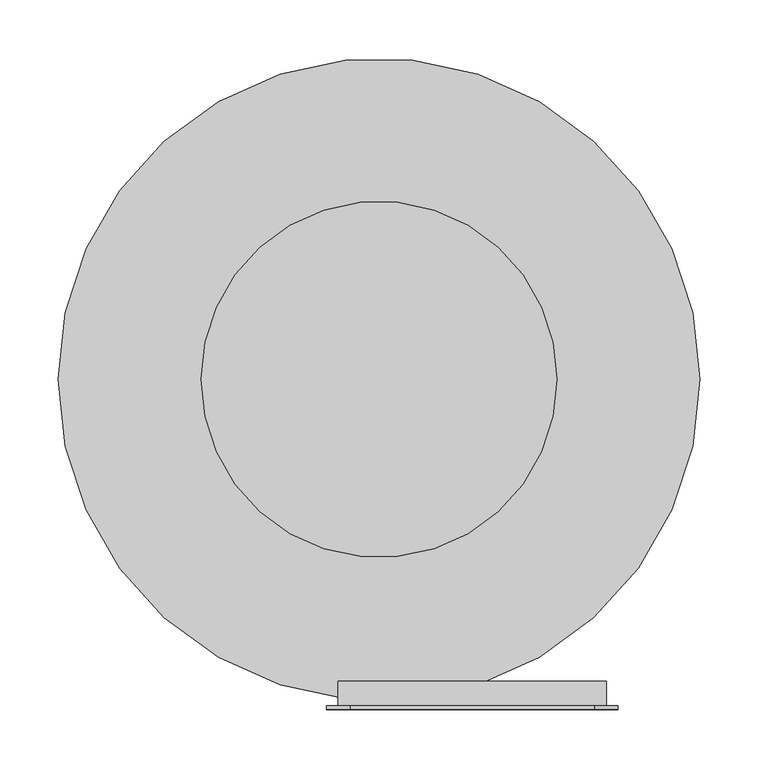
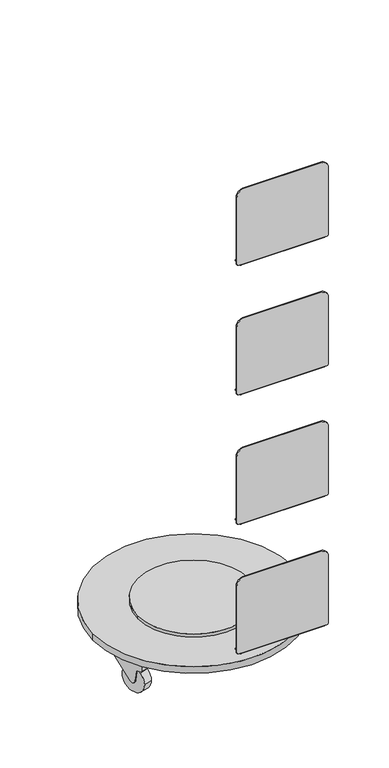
"""IFC4 building model written with IfcOpenShell, lengths in millimetres: furniture geometry, BK Library - Linnea : BK Library - Linnea."""

from ifc_helpers import new_model, si_unit, point, frame, frame_2d, origin, origin_2d, place, context, project, spatial, polyline, circle_curve, trimmed, segment, composite_curve, outline, extrude, source, transform, mapped, element, save
from ifc_brep_helpers import plane_surface, cylinder_surface, advanced_brep


def furniture_84b8f935(model_context):
    return source(origin(), model_context, "Body", "SolidModel", [
        extrude(outline(composite_curve([segment(trimmed(circle_curve(origin_2d(), 152.516398), [point((-152.516398, 0.0))], [point((152.516398, 0.0))], False, "CARTESIAN"), True, "CONTINUOUS"), segment(trimmed(circle_curve(origin_2d(), 152.516398), [point((152.516398, 0.0))], [point((-152.516398, 0.0))], False, "CARTESIAN"), True, "CONTINUOUS")], self_intersect=False)), frame((0.0, 0.0, 116.0), z_axis=(0.0, 0.0, 1.0), x_axis=(1.0, 0.0, 0.0)), (0.0, 0.0, 1.0), 9.0),
        extrude(outline(composite_curve([segment(trimmed(circle_curve(frame_2d((228.1998061, -74.1779219)), 12.5248147), [point((224.3294255, -86.0897285))], [point((232.0701867, -62.2661152))], False, "CARTESIAN"), True, "CONTINUOUS"), segment(trimmed(circle_curve(frame_2d((228.1998061, -74.1779219)), 12.5248147), [point((232.0701867, -62.2661152))], [point((224.3294255, -86.0897285))], False, "CARTESIAN"), True, "CONTINUOUS")], self_intersect=False)), frame((0.0, 0.0, 87.7), z_axis=(0.0, 0.0, 1.0), x_axis=(1.0, 0.0, 0.0)), (0.0, 0.0, 1.0), 9.3),
        extrude(outline(composite_curve([segment(polyline([(0.0, -4.0), (-15.534626, -4.0), (-15.534626, 82.4985133), (-7.8331448, 82.4985133), (42.8326001, 31.6464633)]), True, "CONTINUOUS"), segment(trimmed(circle_curve(frame_2d((37.165374, 26.0)), 8.0), [point((42.8326001, 31.6464633))], [point((38.2375371, 18.0721714))], False, "CARTESIAN"), True, "CONTINUOUS"), segment(polyline([(38.2375371, 18.0721714), (6.2199498, 13.7420986)]), True, "CONTINUOUS"), segment(trimmed(circle_curve(frame_2d((6.4879906, 11.7601414)), 2.0), [point((6.2199498, 13.7420986))], [point((4.5183751, 12.1074378))], True, "CARTESIAN"), True, "CONTINUOUS"), segment(polyline([(4.5183751, 12.1074378), (1.9696155, -2.3472964)]), True, "CONTINUOUS"), segment(trimmed(circle_curve(frame_2d((0.0, -2.0)), 2.0), [point((1.9696155, -2.3472964))], [point((0.0, -4.0))], False, "CARTESIAN"), True, "CONTINUOUS")], self_intersect=False)), frame((262.2837087, -21.2071499, 72.665374), z_axis=(-0.9510565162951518, 0.3090169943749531, 0.0), x_axis=(0.0, 0.0, -1.0)), (0.0, 0.0, 1.0), 32.0),
        extrude(outline(composite_curve([segment(trimmed(circle_curve(frame_2d((0.0, -35.6947524)), 35.6947525), [point((0.0, -71.389505))], [point((0.0, 0.0))], False, "CARTESIAN"), True, "CONTINUOUS"), segment(trimmed(circle_curve(frame_2d((0.0, -35.6947524)), 35.6947525), [point((0.0, 0.0))], [point((0.0, -71.389505))], False, "CARTESIAN"), True, "CONTINUOUS")], self_intersect=False)), frame((239.446761, -78.5477759, 35.6872146), z_axis=(-0.9510565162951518, 0.3090169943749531, 0.0), x_axis=(0.0, 0.0, -1.0)), (0.0, 0.0, 1.0), 24.0),
        extrude(outline(composite_curve([segment(trimmed(circle_curve(frame_2d((141.0650141, 194.1086741)), 12.5248147), [point((151.1978021, 186.7467727))], [point((130.9322262, 201.4705755))], False, "CARTESIAN"), True, "CONTINUOUS"), segment(trimmed(circle_curve(frame_2d((141.0650141, 194.1086741)), 12.5248147), [point((130.9322262, 201.4705755))], [point((151.1978021, 186.7467727))], False, "CARTESIAN"), True, "CONTINUOUS")], self_intersect=False)), frame((0.0, 0.0, 87.7), z_axis=(0.0, 0.0, 1.0), x_axis=(1.0, 0.0, 0.0)), (0.0, 0.0, 1.0), 9.3),
        extrude(outline(composite_curve([segment(trimmed(circle_curve(frame_2d((0.0, -2.0)), 2.0), [point((0.0, -4.0))], [point((-1.9696155, -2.3472964))], False, "CARTESIAN"), True, "CONTINUOUS"), segment(polyline([(-1.9696155, -2.3472964), (-4.5183751, 12.1074377)]), True, "CONTINUOUS"), segment(trimmed(circle_curve(frame_2d((-6.4879906, 11.7601414)), 2.0), [point((-4.5183751, 12.1074377))], [point((-6.2199498, 13.7420985))], True, "CARTESIAN"), True, "CONTINUOUS"), segment(polyline([(-6.2199498, 13.7420985), (-38.2375371, 18.0721714)]), True, "CONTINUOUS"), segment(trimmed(circle_curve(frame_2d((-37.165374, 25.9999999)), 8.0), [point((-38.2375371, 18.0721714))], [point((-42.8326001, 31.6464633))], False, "CARTESIAN"), True, "CONTINUOUS"), segment(polyline([(-42.8326001, 31.6464633), (7.8331448, 82.4985133), (15.534626, 82.4985133), (15.534626, -4.0), (0.0, -4.0)]), True, "CONTINUOUS")], self_intersect=False)), frame((82.4101934, 217.0047167, 72.665374), z_axis=(0.5877852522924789, 0.8090169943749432, 0.0), x_axis=(0.0, 0.0, 1.0)), (0.0, 0.0, 1.0), 32.0),
        extrude(outline(composite_curve([segment(trimmed(circle_curve(frame_2d((0.0, -35.6947525)), 35.6947525), [point((0.0, -71.3895049))], [point((0.0, 0.0))], False, "CARTESIAN"), True, "CONTINUOUS"), segment(trimmed(circle_curve(frame_2d((0.0, -35.6947525)), 35.6947525), [point((0.0, 0.0))], [point((0.0, -71.3895049))], False, "CARTESIAN"), True, "CONTINUOUS")], self_intersect=False)), frame((134.5896465, 184.0383969, 35.6872146), z_axis=(0.5877852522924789, 0.8090169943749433, 0.0), x_axis=(0.0, 0.0, 1.0)), (0.0, 0.0, 1.0), 24.0),
        extrude(outline(composite_curve([segment(trimmed(circle_curve(frame_2d((-141.0168327, 194.14368)), 12.5248147), [point((-130.8840447, 201.5055814))], [point((-151.1496207, 186.7817786))], False, "CARTESIAN"), True, "CONTINUOUS"), segment(trimmed(circle_curve(frame_2d((-141.0168327, 194.14368)), 12.5248147), [point((-151.1496207, 186.7817786))], [point((-130.8840447, 201.5055814))], False, "CARTESIAN"), True, "CONTINUOUS")], self_intersect=False)), frame((0.0, 0.0, 87.7), z_axis=(0.0, 0.0, 1.0), x_axis=(1.0, 0.0, 0.0)), (0.0, 0.0, 1.0), 9.3),
        extrude(outline(composite_curve([segment(trimmed(circle_curve(frame_2d((0.0, -1.9999999)), 2.0), [point((0.0, -3.9999999))], [point((-1.9696155, -2.3472963))], False, "CARTESIAN"), True, "CONTINUOUS"), segment(polyline([(-1.9696155, -2.3472963), (-4.5183751, 12.1074379)]), True, "CONTINUOUS"), segment(trimmed(circle_curve(frame_2d((-6.4879906, 11.7601415)), 2.0), [point((-4.5183751, 12.1074379))], [point((-6.2199498, 13.7420986))], True, "CARTESIAN"), True, "CONTINUOUS"), segment(polyline([(-6.2199498, 13.7420986), (-38.2375371, 18.0721715)]), True, "CONTINUOUS"), segment(trimmed(circle_curve(frame_2d((-37.165374, 26.0000001)), 8.0), [point((-38.2375371, 18.0721715))], [point((-42.8326001, 31.6464634))], False, "CARTESIAN"), True, "CONTINUOUS"), segment(polyline([(-42.8326001, 31.6464634), (7.8331448, 82.4985134), (15.534626, 82.4985134), (15.534626, -3.9999999), (0.0, -3.9999999)]), True, "CONTINUOUS")], self_intersect=False)), frame((-180.9175997, 145.4348967, 72.665374), z_axis=(-0.5877852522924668, 0.8090169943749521, 0.0), x_axis=(0.0, 0.0, 1.0)), (0.0, 0.0, 1.0), 32.0),
        extrude(outline(composite_curve([segment(trimmed(circle_curve(frame_2d((0.0, -35.6947524)), 35.6947525), [point((0.0, -71.3895049))], [point((0.0, 0.0))], False, "CARTESIAN"), True, "CONTINUOUS"), segment(trimmed(circle_curve(frame_2d((0.0, -35.6947524)), 35.6947525), [point((0.0, 0.0))], [point((0.0, -71.3895049))], False, "CARTESIAN"), True, "CONTINUOUS")], self_intersect=False)), frame((-133.4404286, 184.8733526, 35.6872146), z_axis=(-0.5877852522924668, 0.8090169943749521, 0.0), x_axis=(0.0, 0.0, 1.0)), (0.0, 0.0, 1.0), 24.0),
        extrude(outline(composite_curve([segment(trimmed(circle_curve(frame_2d((-228.2182097, -74.1212812)), 12.5248147), [point((-232.0885903, -62.2094745))], [point((-224.3478291, -86.0330878))], False, "CARTESIAN"), True, "CONTINUOUS"), segment(trimmed(circle_curve(frame_2d((-228.2182097, -74.1212812)), 12.5248147), [point((-224.3478291, -86.0330878))], [point((-232.0885903, -62.2094745))], False, "CARTESIAN"), True, "CONTINUOUS")], self_intersect=False)), frame((0.0, 0.0, 87.7), z_axis=(0.0, 0.0, 1.0), x_axis=(1.0, 0.0, 0.0)), (0.0, 0.0, 1.0), 9.3),
        extrude(outline(composite_curve([segment(polyline([(0.0, -4.0), (-15.534626, -4.0), (-15.534626, 82.4985134), (-7.8331448, 82.4985134), (42.8326001, 31.6464633)]), True, "CONTINUOUS"), segment(trimmed(circle_curve(frame_2d((37.165374, 26.0)), 8.0), [point((42.8326001, 31.6464633))], [point((38.2375371, 18.0721714))], False, "CARTESIAN"), True, "CONTINUOUS"), segment(polyline([(38.2375371, 18.0721714), (6.2199498, 13.7420986)]), True, "CONTINUOUS"), segment(trimmed(circle_curve(frame_2d((6.4879906, 11.7601414)), 2.0), [point((6.2199498, 13.7420986))], [point((4.5183751, 12.1074378))], True, "CARTESIAN"), True, "CONTINUOUS"), segment(polyline([(4.5183751, 12.1074378), (1.9696155, -2.3472963)]), True, "CONTINUOUS"), segment(trimmed(circle_curve(frame_2d((0.0, -1.9999999)), 2.0), [point((1.9696155, -2.3472963))], [point((0.0, -4.0))], False, "CARTESIAN"), True, "CONTINUOUS")], self_intersect=False)), frame((-224.6572276, -137.0095512, 72.665374), z_axis=(0.9510565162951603, 0.3090169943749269, 0.0), x_axis=(0.0, 0.0, -1.0)), (0.0, 0.0, 1.0), 32.0),
        extrude(outline(composite_curve([segment(trimmed(circle_curve(frame_2d((0.0, -35.6947524)), 35.6947525), [point((0.0, -71.3895049))], [point((0.0, 0.0))], False, "CARTESIAN"), True, "CONTINUOUS"), segment(trimmed(circle_curve(frame_2d((0.0, -35.6947524)), 35.6947525), [point((0.0, 0.0))], [point((0.0, -71.3895049))], False, "CARTESIAN"), True, "CONTINUOUS")], self_intersect=False)), frame((-239.8857232, -77.1967893, 35.6872146), z_axis=(0.9510565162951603, 0.30901699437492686, 0.0), x_axis=(0.0, 0.0, -1.0)), (0.0, 0.0, 1.0), 24.0),
        extrude(outline(composite_curve([segment(trimmed(circle_curve(origin_2d(), 275.0), [point((-275.0, 0.0))], [point((275.0, 0.0))], False, "CARTESIAN"), True, "CONTINUOUS"), segment(trimmed(circle_curve(origin_2d(), 275.0), [point((275.0, 0.0))], [point((-275.0, 0.0))], False, "CARTESIAN"), True, "CONTINUOUS")], self_intersect=False)), frame((0.0, 0.0, 97.0075378), z_axis=(0.0, 0.0, 1.0), x_axis=(1.0, 0.0, 0.0)), (0.0, 0.0, 1.0), 18.9924622),
        advanced_brep(
        [(-25.0, -283.0, 1486.75), (-45.0, -283.0, 1466.75), (-45.0, -283.0, 1274.75), (-40.0, -283.0, 1269.75), (-35.0, -283.0, 1269.75), (195.0, -283.0, 1269.75), (200.0, -283.0, 1269.75), (205.0, -283.0, 1274.75), (205.0, -283.0, 1466.75), (185.0, -283.0, 1486.75), (-25.0, -280.0, 1486.75), (185.0, -280.0, 1486.75), (205.0, -280.0, 1466.75), (205.0, -280.0, 1274.75), (200.0, -280.0, 1269.75), (195.0, -280.0, 1269.75), (-35.0, -280.0, 1269.75), (-40.0, -280.0, 1269.75), (-45.0, -280.0, 1274.75), (-45.0, -280.0, 1466.75), (195.0, -280.0, 1266.75), (195.0, -259.0, 1266.75), (195.0, -259.0, 1269.75), (-35.0, -259.0, 1269.75), (-35.0, -259.0, 1266.75), (-35.0, -280.0, 1266.75)],
        [
            (0, 1, circle_curve(frame((-25.0, -283.0, 1466.75), z_axis=(0.0, -1.0, 0.0), x_axis=(-1.0, 0.0, 0.0)), 20.0)),
            (1, 2),
            (2, 3, circle_curve(frame((-40.0, -283.0, 1274.75), z_axis=(0.0, -1.0, 0.0), x_axis=(-1.0, 0.0, 0.0)), 5.0)),
            (3, 4),
            (4, 5),
            (5, 6),
            (6, 7, circle_curve(frame((200.0, -283.0, 1274.75), z_axis=(0.0, -1.0, 0.0), x_axis=(-1.0, 0.0, 0.0)), 5.0)),
            (7, 8),
            (8, 9, circle_curve(frame((185.0, -283.0, 1466.75), z_axis=(0.0, -1.0, 0.0), x_axis=(-1.0, 0.0, 0.0)), 20.0)),
            (9, 0),
            (10, 11),
            (11, 12, circle_curve(frame((185.0, -280.0, 1466.75), z_axis=(0.0, 1.0, 0.0), x_axis=(-1.0, 0.0, 0.0)), 20.0)),
            (12, 13),
            (13, 14, circle_curve(frame((200.0, -280.0, 1274.75), z_axis=(0.0, 1.0, 0.0), x_axis=(-1.0, 0.0, 0.0)), 5.0)),
            (14, 15),
            (15, 16),
            (16, 17),
            (17, 18, circle_curve(frame((-40.0, -280.0, 1274.75), z_axis=(0.0, 1.0, 0.0), x_axis=(-1.0, 0.0, 0.0)), 5.0)),
            (18, 19),
            (19, 10, circle_curve(frame((-25.0, -280.0, 1466.75), z_axis=(0.0, 1.0, 0.0), x_axis=(-1.0, 0.0, 0.0)), 20.0)),
            (0, 10),
            (19, 1),
            (18, 2),
            (17, 3),
            (16, 4),
            (5, 15),
            (14, 6),
            (13, 7),
            (12, 8),
            (11, 9),
            (5, 20, circle_curve(frame((195.0, -280.0, 1269.75), z_axis=(1.0, 0.0, 0.0), x_axis=(0.0, 1.0, 0.0)), 3.0)),
            (20, 21),
            (21, 22),
            (22, 15),
            (16, 23),
            (23, 24),
            (24, 25),
            (25, 4, circle_curve(frame((-35.0, -280.0, 1269.75), z_axis=(-1.0, 0.0, 0.0), x_axis=(0.0, 1.0, 0.0)), 3.0)),
            (25, 20),
            (24, 21),
            (23, 22),
        ],
        [
            plane_surface(frame((-45.0, -283.0, 1466.75), z_axis=(0.0, -1.0, 0.0), x_axis=(0.0, 0.0, -1.0))),
            plane_surface(frame((-45.0, -280.0, 1466.75), z_axis=(0.0, 1.0, 0.0), x_axis=(0.0, 0.0, 1.0))),
            cylinder_surface(frame((-25.0, -280.0, 1466.75), z_axis=(0.0, -1.0, 0.0), x_axis=(-1.0, 0.0, 0.0)), 20.0),
            plane_surface(frame((-45.0, -283.0, 1466.75), z_axis=(-1.0, 0.0, 0.0), x_axis=(0.0, 1.0, 0.0))),
            cylinder_surface(frame((-40.0, -280.0, 1274.75), z_axis=(0.0, -1.0, 0.0), x_axis=(-1.0, 0.0, 0.0)), 5.0),
            plane_surface(frame((-40.0, -283.0, 1269.75), z_axis=(0.0, 0.0, -1.0), x_axis=(0.0, 1.0, 0.0))),
            plane_surface(frame((195.0, -283.0, 1269.75), z_axis=(0.0, 0.0, -1.0), x_axis=(0.0, 1.0, 0.0))),
            cylinder_surface(frame((200.0, -280.0, 1274.75), z_axis=(0.0, -1.0, 0.0), x_axis=(-1.0, 0.0, 0.0)), 5.0),
            plane_surface(frame((205.0, -283.0, 1274.75), z_axis=(1.0, 0.0, 0.0), x_axis=(0.0, 1.0, 0.0))),
            cylinder_surface(frame((185.0, -280.0, 1466.75), z_axis=(0.0, -1.0, 0.0), x_axis=(-1.0, 0.0, 0.0)), 20.0),
            plane_surface(frame((185.0, -283.0, 1486.75), z_axis=(0.0, 0.0, 1.0), x_axis=(0.0, 1.0, 0.0))),
            plane_surface(frame((195.0, -280.0, 895.5), z_axis=(1.0, 0.0, 0.0), x_axis=(0.0, -1.0, 0.0))),
            plane_surface(frame((-35.0, -280.0, 895.5), z_axis=(-1.0, 0.0, 0.0), x_axis=(0.0, 1.0, 0.0))),
            cylinder_surface(frame((0.0, -280.0, 1269.75), z_axis=(1.0, 0.0, 0.0), x_axis=(0.0, 1.0, 0.0)), 3.0),
            plane_surface(frame((195.0, -280.0, 1266.75), z_axis=(0.0, 0.0, -1.0), x_axis=(-1.0, 0.0, 0.0))),
            plane_surface(frame((195.0, -259.0, 1266.75), z_axis=(0.0, 1.0, 0.0), x_axis=(-1.0, 0.0, 0.0))),
            plane_surface(frame((195.0, -259.0, 1269.75), z_axis=(0.0, 0.0, 1.0), x_axis=(-1.0, 0.0, 0.0))),
        ],
        [
            (0, [[1, 2, 3, 4, 5, 6, 7, 8, 9, 10]]),
            (1, [[11, 12, 13, 14, 15, 16, 17, 18, 19, 20]]),
            (2, [[-1, 21, -20, 22]]),
            (3, [[-2, -22, -19, 23]]),
            (4, [[-3, -23, -18, 24]]),
            (5, [[-4, -24, -17, 25]]),
            (6, [[-6, 26, -15, 27]]),
            (7, [[-7, -27, -14, 28]]),
            (8, [[-8, -28, -13, 29]]),
            (9, [[-9, -29, -12, 30]]),
            (10, [[-10, -30, -11, -21]]),
            (11, [[31, 32, 33, 34, -26]]),
            (12, [[35, 36, 37, 38, -25]]),
            (13, [[-31, -5, -38, 39]]),
            (14, [[-32, -39, -37, 40]]),
            (15, [[-33, -40, -36, 41]]),
            (16, [[-34, -41, -35, -16]]),
        ],
    ),
        advanced_brep(
        [(-25.0, -283.0, 1112.5), (-45.0, -283.0, 1092.5), (-45.0, -283.0, 900.5), (-40.0, -283.0, 895.5), (-35.0, -283.0, 895.5), (195.0, -283.0, 895.5), (200.0, -283.0, 895.5), (205.0, -283.0, 900.5), (205.0, -283.0, 1092.5), (185.0, -283.0, 1112.5), (-25.0, -280.0, 1112.5), (185.0, -280.0, 1112.5), (205.0, -280.0, 1092.5), (205.0, -280.0, 900.5), (200.0, -280.0, 895.5), (195.0, -280.0, 895.5), (-35.0, -280.0, 895.5), (-40.0, -280.0, 895.5), (-45.0, -280.0, 900.5), (-45.0, -280.0, 1092.5), (195.0, -280.0, 892.5), (195.0, -259.0, 892.5), (195.0, -259.0, 895.5), (-35.0, -259.0, 895.5), (-35.0, -259.0, 892.5), (-35.0, -280.0, 892.5)],
        [
            (0, 1, circle_curve(frame((-25.0, -283.0, 1092.5), z_axis=(0.0, -1.0, 0.0), x_axis=(-1.0, 0.0, 0.0)), 20.0)),
            (1, 2),
            (2, 3, circle_curve(frame((-40.0, -283.0, 900.5), z_axis=(0.0, -1.0, 0.0), x_axis=(-1.0, 0.0, 0.0)), 5.0)),
            (3, 4),
            (4, 5),
            (5, 6),
            (6, 7, circle_curve(frame((200.0, -283.0, 900.5), z_axis=(0.0, -1.0, 0.0), x_axis=(-1.0, 0.0, 0.0)), 5.0)),
            (7, 8),
            (8, 9, circle_curve(frame((185.0, -283.0, 1092.5), z_axis=(0.0, -1.0, 0.0), x_axis=(-1.0, 0.0, 0.0)), 20.0)),
            (9, 0),
            (10, 11),
            (11, 12, circle_curve(frame((185.0, -280.0, 1092.5), z_axis=(0.0, 1.0, 0.0), x_axis=(-1.0, 0.0, 0.0)), 20.0)),
            (12, 13),
            (13, 14, circle_curve(frame((200.0, -280.0, 900.5), z_axis=(0.0, 1.0, 0.0), x_axis=(-1.0, 0.0, 0.0)), 5.0)),
            (14, 15),
            (15, 16),
            (16, 17),
            (17, 18, circle_curve(frame((-40.0, -280.0, 900.5), z_axis=(0.0, 1.0, 0.0), x_axis=(-1.0, 0.0, 0.0)), 5.0)),
            (18, 19),
            (19, 10, circle_curve(frame((-25.0, -280.0, 1092.5), z_axis=(0.0, 1.0, 0.0), x_axis=(-1.0, 0.0, 0.0)), 20.0)),
            (0, 10),
            (19, 1),
            (18, 2),
            (17, 3),
            (16, 4),
            (5, 15),
            (14, 6),
            (13, 7),
            (12, 8),
            (11, 9),
            (5, 20, circle_curve(frame((195.0, -280.0, 895.5), z_axis=(1.0, 0.0, 0.0), x_axis=(0.0, 1.0, 0.0)), 3.0)),
            (20, 21),
            (21, 22),
            (22, 15),
            (16, 23),
            (23, 24),
            (24, 25),
            (25, 4, circle_curve(frame((-35.0, -280.0, 895.5), z_axis=(-1.0, 0.0, 0.0), x_axis=(0.0, 1.0, 0.0)), 3.0)),
            (25, 20),
            (24, 21),
            (23, 22),
        ],
        [
            plane_surface(frame((-45.0, -283.0, 1466.75), z_axis=(0.0, -1.0, 0.0), x_axis=(0.0, 0.0, -1.0))),
            plane_surface(frame((-45.0, -280.0, 1466.75), z_axis=(0.0, 1.0, 0.0), x_axis=(0.0, 0.0, 1.0))),
            cylinder_surface(frame((-25.0, -120.0, 1092.5), z_axis=(0.0, -1.0, 0.0), x_axis=(-1.0, 0.0, 0.0)), 20.0),
            plane_surface(frame((-45.0, -283.0, 1092.5), z_axis=(-1.0, 0.0, 0.0), x_axis=(0.0, 1.0, 0.0))),
            cylinder_surface(frame((-40.0, -120.0, 900.5), z_axis=(0.0, -1.0, 0.0), x_axis=(-1.0, 0.0, 0.0)), 5.0),
            plane_surface(frame((-40.0, -283.0, 895.5), z_axis=(0.0, 0.0, -1.0), x_axis=(0.0, 1.0, 0.0))),
            plane_surface(frame((195.0, -283.0, 895.5), z_axis=(0.0, 0.0, -1.0), x_axis=(0.0, 1.0, 0.0))),
            cylinder_surface(frame((200.0, -120.0, 900.5), z_axis=(0.0, -1.0, 0.0), x_axis=(-1.0, 0.0, 0.0)), 5.0),
            plane_surface(frame((205.0, -283.0, 900.5), z_axis=(1.0, 0.0, 0.0), x_axis=(0.0, 1.0, 0.0))),
            cylinder_surface(frame((185.0, -120.0, 1092.5), z_axis=(0.0, -1.0, 0.0), x_axis=(-1.0, 0.0, 0.0)), 20.0),
            plane_surface(frame((185.0, -283.0, 1112.5), z_axis=(0.0, 0.0, 1.0), x_axis=(0.0, 1.0, 0.0))),
            plane_surface(frame((195.0, -280.0, 895.5), z_axis=(1.0, 0.0, 0.0), x_axis=(0.0, -1.0, 0.0))),
            plane_surface(frame((-35.0, -280.0, 895.5), z_axis=(-1.0, 0.0, 0.0), x_axis=(0.0, 1.0, 0.0))),
            cylinder_surface(frame((-35.0, -280.0, 895.5), z_axis=(1.0, 0.0, 0.0), x_axis=(0.0, 1.0, 0.0)), 3.0),
            plane_surface(frame((195.0, -280.0, 892.5), z_axis=(0.0, 0.0, -1.0), x_axis=(-1.0, 0.0, 0.0))),
            plane_surface(frame((195.0, -259.0, 892.5), z_axis=(0.0, 1.0, 0.0), x_axis=(-1.0, 0.0, 0.0))),
            plane_surface(frame((195.0, -259.0, 895.5), z_axis=(0.0, 0.0, 1.0), x_axis=(-1.0, 0.0, 0.0))),
        ],
        [
            (0, [[1, 2, 3, 4, 5, 6, 7, 8, 9, 10]]),
            (1, [[11, 12, 13, 14, 15, 16, 17, 18, 19, 20]]),
            (2, [[-1, 21, -20, 22]]),
            (3, [[-2, -22, -19, 23]]),
            (4, [[-3, -23, -18, 24]]),
            (5, [[-4, -24, -17, 25]]),
            (6, [[-6, 26, -15, 27]]),
            (7, [[-7, -27, -14, 28]]),
            (8, [[-8, -28, -13, 29]]),
            (9, [[-9, -29, -12, 30]]),
            (10, [[-10, -30, -11, -21]]),
            (11, [[31, 32, 33, 34, -26]]),
            (12, [[35, 36, 37, 38, -25]]),
            (13, [[-31, -5, -38, 39]]),
            (14, [[-32, -39, -37, 40]]),
            (15, [[-33, -40, -36, 41]]),
            (16, [[-34, -41, -35, -16]]),
        ],
    ),
        advanced_brep(
        [(-25.0, -283.0, 738.25), (-45.0, -283.0, 718.25), (-45.0, -283.0, 526.25), (-40.0, -283.0, 521.25), (-35.0, -283.0, 521.25), (195.0, -283.0, 521.25), (200.0, -283.0, 521.25), (205.0, -283.0, 526.25), (205.0, -283.0, 718.25), (185.0, -283.0, 738.25), (-25.0, -280.0, 738.25), (185.0, -280.0, 738.25), (205.0, -280.0, 718.25), (205.0, -280.0, 526.25), (200.0, -280.0, 521.25), (195.0, -280.0, 521.25), (-35.0, -280.0, 521.25), (-40.0, -280.0, 521.25), (-45.0, -280.0, 526.25), (-45.0, -280.0, 718.25), (195.0, -280.0, 518.25), (195.0, -259.0, 518.25), (195.0, -259.0, 521.25), (-35.0, -259.0, 521.25), (-35.0, -259.0, 518.25), (-35.0, -280.0, 518.25)],
        [
            (0, 1, circle_curve(frame((-25.0, -283.0, 718.25), z_axis=(0.0, -1.0, 0.0), x_axis=(-1.0, 0.0, 0.0)), 20.0)),
            (1, 2),
            (2, 3, circle_curve(frame((-40.0, -283.0, 526.25), z_axis=(0.0, -1.0, 0.0), x_axis=(-1.0, 0.0, 0.0)), 5.0)),
            (3, 4),
            (4, 5),
            (5, 6),
            (6, 7, circle_curve(frame((200.0, -283.0, 526.25), z_axis=(0.0, -1.0, 0.0), x_axis=(-1.0, 0.0, 0.0)), 5.0)),
            (7, 8),
            (8, 9, circle_curve(frame((185.0, -283.0, 718.25), z_axis=(0.0, -1.0, 0.0), x_axis=(-1.0, 0.0, 0.0)), 20.0)),
            (9, 0),
            (10, 11),
            (11, 12, circle_curve(frame((185.0, -280.0, 718.25), z_axis=(0.0, 1.0, 0.0), x_axis=(-1.0, 0.0, 0.0)), 20.0)),
            (12, 13),
            (13, 14, circle_curve(frame((200.0, -280.0, 526.25), z_axis=(0.0, 1.0, 0.0), x_axis=(-1.0, 0.0, 0.0)), 5.0)),
            (14, 15),
            (15, 16),
            (16, 17),
            (17, 18, circle_curve(frame((-40.0, -280.0, 526.25), z_axis=(0.0, 1.0, 0.0), x_axis=(-1.0, 0.0, 0.0)), 5.0)),
            (18, 19),
            (19, 10, circle_curve(frame((-25.0, -280.0, 718.25), z_axis=(0.0, 1.0, 0.0), x_axis=(-1.0, 0.0, 0.0)), 20.0)),
            (0, 10),
            (19, 1),
            (18, 2),
            (17, 3),
            (16, 4),
            (5, 15),
            (14, 6),
            (13, 7),
            (12, 8),
            (11, 9),
            (5, 20, circle_curve(frame((195.0, -280.0, 521.25), z_axis=(1.0, 0.0, 0.0), x_axis=(0.0, 1.0, 0.0)), 3.0)),
            (20, 21),
            (21, 22),
            (22, 15),
            (16, 23),
            (23, 24),
            (24, 25),
            (25, 4, circle_curve(frame((-35.0, -280.0, 521.25), z_axis=(-1.0, 0.0, 0.0), x_axis=(0.0, 1.0, 0.0)), 3.0)),
            (25, 20),
            (24, 21),
            (23, 22),
        ],
        [
            plane_surface(frame((-45.0, -283.0, 1466.75), z_axis=(0.0, -1.0, 0.0), x_axis=(0.0, 0.0, -1.0))),
            plane_surface(frame((-45.0, -280.0, 1466.75), z_axis=(0.0, 1.0, 0.0), x_axis=(0.0, 0.0, 1.0))),
            cylinder_surface(frame((-25.0, -120.0, 718.25), z_axis=(0.0, -1.0, 0.0), x_axis=(-1.0, 0.0, 0.0)), 20.0),
            plane_surface(frame((-45.0, -283.0, 718.25), z_axis=(-1.0, 0.0, 0.0), x_axis=(0.0, 1.0, 0.0))),
            cylinder_surface(frame((-40.0, -120.0, 526.25), z_axis=(0.0, -1.0, 0.0), x_axis=(-1.0, 0.0, 0.0)), 5.0),
            plane_surface(frame((-40.0, -283.0, 521.25), z_axis=(0.0, 0.0, -1.0), x_axis=(0.0, 1.0, 0.0))),
            plane_surface(frame((195.0, -283.0, 521.25), z_axis=(0.0, 0.0, -1.0), x_axis=(0.0, 1.0, 0.0))),
            cylinder_surface(frame((200.0, -120.0, 526.25), z_axis=(0.0, -1.0, 0.0), x_axis=(-1.0, 0.0, 0.0)), 5.0),
            plane_surface(frame((205.0, -283.0, 526.25), z_axis=(1.0, 0.0, 0.0), x_axis=(0.0, 1.0, 0.0))),
            cylinder_surface(frame((185.0, -120.0, 718.25), z_axis=(0.0, -1.0, 0.0), x_axis=(-1.0, 0.0, 0.0)), 20.0),
            plane_surface(frame((185.0, -283.0, 738.25), z_axis=(0.0, 0.0, 1.0), x_axis=(0.0, 1.0, 0.0))),
            plane_surface(frame((195.0, -280.0, 895.5), z_axis=(1.0, 0.0, 0.0), x_axis=(0.0, -1.0, 0.0))),
            plane_surface(frame((-35.0, -280.0, 895.5), z_axis=(-1.0, 0.0, 0.0), x_axis=(0.0, 1.0, 0.0))),
            cylinder_surface(frame((0.0, -280.0, 521.25), z_axis=(1.0, 0.0, 0.0), x_axis=(0.0, 1.0, 0.0)), 3.0),
            plane_surface(frame((195.0, -280.0, 518.25), z_axis=(0.0, 0.0, -1.0), x_axis=(-1.0, 0.0, 0.0))),
            plane_surface(frame((195.0, -259.0, 518.25), z_axis=(0.0, 1.0, 0.0), x_axis=(-1.0, 0.0, 0.0))),
            plane_surface(frame((195.0, -259.0, 521.25), z_axis=(0.0, 0.0, 1.0), x_axis=(-1.0, 0.0, 0.0))),
        ],
        [
            (0, [[1, 2, 3, 4, 5, 6, 7, 8, 9, 10]]),
            (1, [[11, 12, 13, 14, 15, 16, 17, 18, 19, 20]]),
            (2, [[-1, 21, -20, 22]]),
            (3, [[-2, -22, -19, 23]]),
            (4, [[-3, -23, -18, 24]]),
            (5, [[-4, -24, -17, 25]]),
            (6, [[-6, 26, -15, 27]]),
            (7, [[-7, -27, -14, 28]]),
            (8, [[-8, -28, -13, 29]]),
            (9, [[-9, -29, -12, 30]]),
            (10, [[-10, -30, -11, -21]]),
            (11, [[31, 32, 33, 34, -26]]),
            (12, [[35, 36, 37, 38, -25]]),
            (13, [[-31, -5, -38, 39]]),
            (14, [[-32, -39, -37, 40]]),
            (15, [[-33, -40, -36, 41]]),
            (16, [[-34, -41, -35, -16]]),
        ],
    ),
        advanced_brep(
        [(-25.0, -283.0, 364.0), (-45.0, -283.0, 344.0), (-45.0, -283.0, 152.0), (-40.0, -283.0, 147.0), (-35.0, -283.0, 147.0), (195.0, -283.0, 147.0), (200.0, -283.0, 147.0), (205.0, -283.0, 152.0), (205.0, -283.0, 344.0), (185.0, -283.0, 364.0), (-25.0, -280.0, 364.0), (185.0, -280.0, 364.0), (205.0, -280.0, 344.0), (205.0, -280.0, 152.0), (200.0, -280.0, 147.0), (195.0, -280.0, 147.0), (-35.0, -280.0, 147.0), (-40.0, -280.0, 147.0), (-45.0, -280.0, 152.0), (-45.0, -280.0, 344.0), (195.0, -280.0, 144.0), (195.0, -259.0, 144.0), (195.0, -259.0, 147.0), (-35.0, -259.0, 147.0), (-35.0, -259.0, 144.0), (-35.0, -280.0, 144.0)],
        [
            (0, 1, circle_curve(frame((-25.0, -283.0, 344.0), z_axis=(0.0, -1.0, 0.0), x_axis=(-1.0, 0.0, 0.0)), 20.0)),
            (1, 2),
            (2, 3, circle_curve(frame((-40.0, -283.0, 152.0), z_axis=(0.0, -1.0, 0.0), x_axis=(-1.0, 0.0, 0.0)), 5.0)),
            (3, 4),
            (4, 5),
            (5, 6),
            (6, 7, circle_curve(frame((200.0, -283.0, 152.0), z_axis=(0.0, -1.0, 0.0), x_axis=(-1.0, 0.0, 0.0)), 5.0)),
            (7, 8),
            (8, 9, circle_curve(frame((185.0, -283.0, 344.0), z_axis=(0.0, -1.0, 0.0), x_axis=(-1.0, 0.0, 0.0)), 20.0)),
            (9, 0),
            (10, 11),
            (11, 12, circle_curve(frame((185.0, -280.0, 344.0), z_axis=(0.0, 1.0, 0.0), x_axis=(-1.0, 0.0, 0.0)), 20.0)),
            (12, 13),
            (13, 14, circle_curve(frame((200.0, -280.0, 152.0), z_axis=(0.0, 1.0, 0.0), x_axis=(-1.0, 0.0, 0.0)), 5.0)),
            (14, 15),
            (15, 16),
            (16, 17),
            (17, 18, circle_curve(frame((-40.0, -280.0, 152.0), z_axis=(0.0, 1.0, 0.0), x_axis=(-1.0, 0.0, 0.0)), 5.0)),
            (18, 19),
            (19, 10, circle_curve(frame((-25.0, -280.0, 344.0), z_axis=(0.0, 1.0, 0.0), x_axis=(-1.0, 0.0, 0.0)), 20.0)),
            (0, 10),
            (19, 1),
            (18, 2),
            (17, 3),
            (16, 4),
            (5, 15),
            (14, 6),
            (13, 7),
            (12, 8),
            (11, 9),
            (5, 20, circle_curve(frame((195.0, -280.0, 147.0), z_axis=(1.0, 0.0, 0.0), x_axis=(0.0, 1.0, 0.0)), 3.0)),
            (20, 21),
            (21, 22),
            (22, 15),
            (16, 23),
            (23, 24),
            (24, 25),
            (25, 4, circle_curve(frame((-35.0, -280.0, 147.0), z_axis=(-1.0, 0.0, 0.0), x_axis=(0.0, 1.0, 0.0)), 3.0)),
            (25, 20),
            (24, 21),
            (23, 22),
        ],
        [
            plane_surface(frame((-45.0, -283.0, 1466.75), z_axis=(0.0, -1.0, 0.0), x_axis=(0.0, 0.0, -1.0))),
            plane_surface(frame((-45.0, -280.0, 1466.75), z_axis=(0.0, 1.0, 0.0), x_axis=(0.0, 0.0, 1.0))),
            cylinder_surface(frame((-25.0, -120.0, 344.0), z_axis=(0.0, -1.0, 0.0), x_axis=(-1.0, 0.0, 0.0)), 20.0),
            plane_surface(frame((-45.0, -283.0, 344.0), z_axis=(-1.0, 0.0, 0.0), x_axis=(0.0, 1.0, 0.0))),
            cylinder_surface(frame((-40.0, -120.0, 152.0), z_axis=(0.0, -1.0, 0.0), x_axis=(-1.0, 0.0, 0.0)), 5.0),
            plane_surface(frame((-40.0, -283.0, 147.0), z_axis=(0.0, 0.0, -1.0), x_axis=(0.0, 1.0, 0.0))),
            plane_surface(frame((195.0, -283.0, 147.0), z_axis=(0.0, 0.0, -1.0), x_axis=(0.0, 1.0, 0.0))),
            cylinder_surface(frame((200.0, -120.0, 152.0), z_axis=(0.0, -1.0, 0.0), x_axis=(-1.0, 0.0, 0.0)), 5.0),
            plane_surface(frame((205.0, -283.0, 152.0), z_axis=(1.0, 0.0, 0.0), x_axis=(0.0, 1.0, 0.0))),
            cylinder_surface(frame((185.0, -120.0, 344.0), z_axis=(0.0, -1.0, 0.0), x_axis=(-1.0, 0.0, 0.0)), 20.0),
            plane_surface(frame((185.0, -283.0, 364.0), z_axis=(0.0, 0.0, 1.0), x_axis=(0.0, 1.0, 0.0))),
            plane_surface(frame((195.0, -280.0, 895.5), z_axis=(1.0, 0.0, 0.0), x_axis=(0.0, -1.0, 0.0))),
            plane_surface(frame((-35.0, -280.0, 895.5), z_axis=(-1.0, 0.0, 0.0), x_axis=(0.0, 1.0, 0.0))),
            cylinder_surface(frame((0.0, -280.0, 147.0), z_axis=(1.0, 0.0, 0.0), x_axis=(0.0, 1.0, 0.0)), 3.0),
            plane_surface(frame((195.0, -280.0, 144.0), z_axis=(0.0, 0.0, -1.0), x_axis=(-1.0, 0.0, 0.0))),
            plane_surface(frame((195.0, -259.0, 144.0), z_axis=(0.0, 1.0, 0.0), x_axis=(-1.0, 0.0, 0.0))),
            plane_surface(frame((195.0, -259.0, 147.0), z_axis=(0.0, 0.0, 1.0), x_axis=(-1.0, 0.0, 0.0))),
        ],
        [
            (0, [[1, 2, 3, 4, 5, 6, 7, 8, 9, 10]]),
            (1, [[11, 12, 13, 14, 15, 16, 17, 18, 19, 20]]),
            (2, [[-1, 21, -20, 22]]),
            (3, [[-2, -22, -19, 23]]),
            (4, [[-3, -23, -18, 24]]),
            (5, [[-4, -24, -17, 25]]),
            (6, [[-6, 26, -15, 27]]),
            (7, [[-7, -27, -14, 28]]),
            (8, [[-8, -28, -13, 29]]),
            (9, [[-9, -29, -12, 30]]),
            (10, [[-10, -30, -11, -21]]),
            (11, [[31, 32, 33, 34, -26]]),
            (12, [[35, 36, 37, 38, -25]]),
            (13, [[-31, -5, -38, 39]]),
            (14, [[-32, -39, -37, 40]]),
            (15, [[-33, -40, -36, 41]]),
            (16, [[-34, -41, -35, -16]]),
        ],
    ),
    ])


if __name__ == "__main__":
    model = new_model("IFC4")
    model_context = context("Model", 3, world=origin())
    ifc_project = project(units=[si_unit("LENGTHUNIT", "METRE", prefix="MILLI")], contexts=[model_context])
    site = spatial("IfcSite", under=ifc_project)
    building = spatial("IfcBuilding", under=site)
    placement = place(None, origin())
    furniture_shape = furniture_84b8f935(model_context)
    element("IfcFurniture", 1, ObjectType="BK Library - Linnea : BK Library - Linnea", at=placement, inside=building, context=model_context, shape_type="MappedRepresentation", body=[
        mapped(furniture_shape, transform((0.0, 0.0, 0.0), x_axis=(1.0, 0.0, 0.0), y_axis=(0.0, 1.0, 0.0), z_axis=(0.0, 0.0, 1.0))),
    ])
    save(model, "model.ifc")
